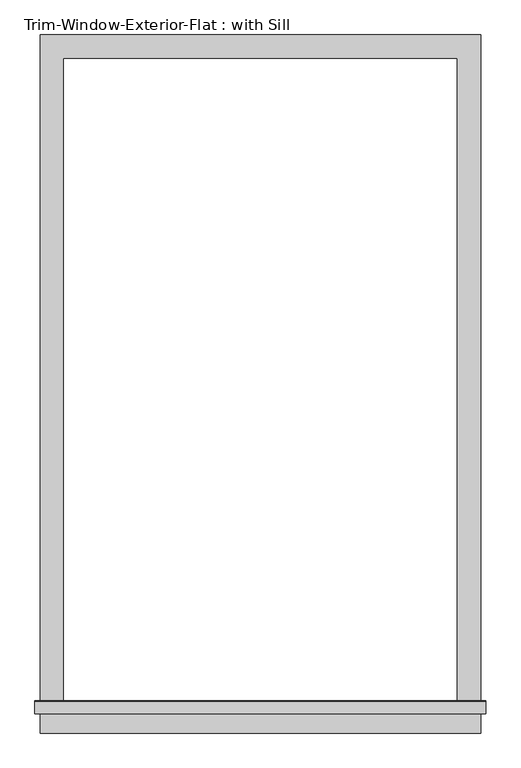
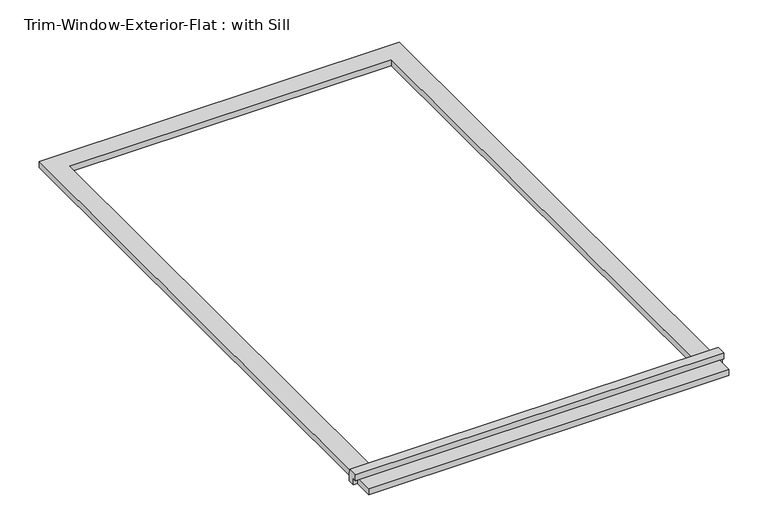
"""IFC4 building model written with IfcOpenShell, lengths in millimetres: proxy geometry, Trim-Window-Exterior-Flat : with Sill."""

from ifc_helpers import new_model, si_unit, frame, origin, origin_with_axes, place, context, project, spatial, polyline, outline, extrude, source, transform, mapped, element, save


def trim_window_exterior_flat_with_sill_11ed3377(model_context):
    return source(origin(), model_context, "Body", "SweptSolid", [
        extrude(outline(polyline([(539.75, -1596.9823709), (539.75, -1654.1323709), (-539.75, -1654.1323709), (-539.75, -1596.9823709), (539.75, -1596.9823709)])), origin_with_axes(), (0.0, 0.0, 1.0), 19.05),
        extrude(outline(polyline([(-1606.55, 38.1), (-1577.2580645, 38.1), (-1574.8, 19.05), (-1574.8, 0.0), (-1596.9823709, 0.0), (-1596.9823709, 19.05), (-1606.55, 19.05), (-1606.55, 38.1)])), frame((-552.45, 0.0, 0.0), z_axis=(1.0, 0.0, 0.0), x_axis=(0.0, 1.0, 0.0)), (0.0, 0.0, 1.0), 1104.9),
        extrude(outline(polyline([(-539.75, 57.15), (539.75, 57.15), (539.75, -1574.8), (482.6, -1574.8), (482.6, 0.0), (-482.6, 0.0), (-482.6, -1574.8), (-539.75, -1574.8), (-539.75, 57.15)])), origin_with_axes(), (0.0, 0.0, 1.0), 19.05),
    ])


if __name__ == "__main__":
    model = new_model("IFC4")
    model_context = context("Model", 3, world=origin())
    ifc_project = project(units=[si_unit("LENGTHUNIT", "METRE", prefix="MILLI")], contexts=[model_context])
    site = spatial("IfcSite", under=ifc_project)
    building = spatial("IfcBuilding", under=site)
    placement = place(None, origin())
    trim_window_exterior_flat_with_sill_shape = trim_window_exterior_flat_with_sill_11ed3377(model_context)
    element("IfcBuildingElementProxy", 1, Name="Trim-Window-Exterior-Flat : with Sill", ObjectType="Trim-Window-Exterior-Flat : with Sill", at=placement, inside=building, context=model_context, shape_type="MappedRepresentation", body=[
        mapped(trim_window_exterior_flat_with_sill_shape, transform((0.0, 0.0, 0.0), x_axis=(1.0, 0.0, 0.0), y_axis=(0.0, 1.0, 0.0), z_axis=(0.0, 0.0, 1.0))),
    ])
    save(model, "model.ifc")
